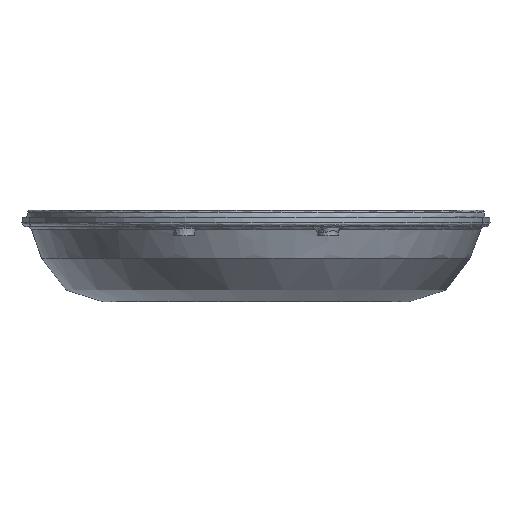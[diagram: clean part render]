
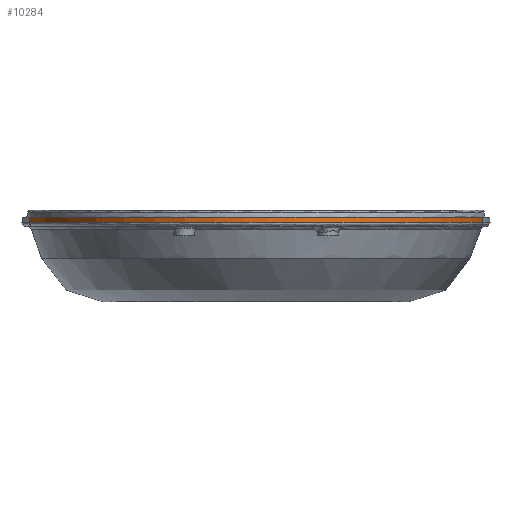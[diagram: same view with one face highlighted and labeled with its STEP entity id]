
A CAD part, left-side view. The second image highlights one B-rep face of the part: STEP entity #10284.
In plain terms, the highlighted free-form (B-spline) face has degree [3, 1] with [21, 2] control points.
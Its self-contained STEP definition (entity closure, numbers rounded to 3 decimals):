
#7384=CARTESIAN_POINT('',(-62.612,48.193,-19.0));
#7385=VERTEX_POINT('',#7384);
#7386=CARTESIAN_POINT('',(-62.612,-48.193,-19.0));
#7387=VERTEX_POINT('',#7386);
#7388=CARTESIAN_POINT('',(-62.612,48.193,-19.0));
#7389=CARTESIAN_POINT('',(-65.071,47.778,-19.0));
#7390=CARTESIAN_POINT('',(-71.294,46.446,-19.0));
#7391=CARTESIAN_POINT('',(-80.989,43.168,-19.0));
#7392=CARTESIAN_POINT('',(-91.288,37.811,-19.0));
#7393=CARTESIAN_POINT('',(-100.492,30.747,-19.0));
#7394=CARTESIAN_POINT('',(-106.801,23.383,-19.0));
#7395=CARTESIAN_POINT('',(-110.628,16.709,-19.0));
#7396=CARTESIAN_POINT('',(-112.787,11.358,-19.0));
#7397=CARTESIAN_POINT('',(-114.132,5.749,-19.0));
#7398=CARTESIAN_POINT('',(-114.59,0.,-19.0));
#7399=CARTESIAN_POINT('',(-114.132,-5.749,-19.0));
#7400=CARTESIAN_POINT('',(-112.787,-11.358,-19.0));
#7401=CARTESIAN_POINT('',(-110.627,-16.709,-19.0));
#7402=CARTESIAN_POINT('',(-106.801,-23.383,-19.0));
#7403=CARTESIAN_POINT('',(-100.492,-30.747,-19.0));
#7404=CARTESIAN_POINT('',(-91.288,-37.811,-19.0));
#7405=CARTESIAN_POINT('',(-80.989,-43.168,-19.0));
#7406=CARTESIAN_POINT('',(-71.294,-46.446,-19.0));
#7407=CARTESIAN_POINT('',(-65.07,-47.778,-19.0));
#7408=CARTESIAN_POINT('',(-62.612,-48.193,-19.));
#7409=B_SPLINE_CURVE_WITH_KNOTS('',3,(#7388,#7389,#7390,#7391,#7392,#7393,#7394,#7395,#7396,#7397,#7398,#7399,#7400,#7401,#7402,#7403,#7404,#7405,#7406,#7407,#7408),.UNSPECIFIED.,.F.,.U.,(4,1,1,1,1,1,1,1,1,1,1,1,1,1,1,1,1,1,4),(4.1,11.576,23.145,34.703,46.243,57.756,63.513,69.263,75.008,80.75,86.492,92.237,97.987,103.744,115.257,126.797,138.355,149.924,157.401),.UNSPECIFIED.);
#7410=EDGE_CURVE('',#7385,#7387,#7409,.T.);
#8366=CARTESIAN_POINT('',(-62.612,48.193,-20.1));
#8367=VERTEX_POINT('',#8366);
#8769=CARTESIAN_POINT('',(-62.612,-48.193,-20.1));
#8770=VERTEX_POINT('',#8769);
#9007=CARTESIAN_POINT('',(-62.612,48.193,-20.1));
#9008=DIRECTION('',(0.0,0.0,1.0));
#9009=VECTOR('',#9008,1.1);
#9010=LINE('',#9007,#9009);
#9011=EDGE_CURVE('',#8367,#7385,#9010,.T.);
#10195=CARTESIAN_POINT('',(-62.612,-48.193,-19.0));
#10196=DIRECTION('',(0.0,0.0,-1.0));
#10197=VECTOR('',#10196,1.1);
#10198=LINE('',#10195,#10197);
#10199=EDGE_CURVE('',#7387,#8770,#10198,.T.);
#10206=CARTESIAN_POINT('',(-62.611,48.193,-19.0));
#10207=CARTESIAN_POINT('',(-65.07,47.778,-19.0));
#10208=CARTESIAN_POINT('',(-71.294,46.446,-19.0));
#10209=CARTESIAN_POINT('',(-80.989,43.168,-19.0));
#10210=CARTESIAN_POINT('',(-91.288,37.811,-19.0));
#10211=CARTESIAN_POINT('',(-100.492,30.747,-19.0));
#10212=CARTESIAN_POINT('',(-106.801,23.383,-19.0));
#10213=CARTESIAN_POINT('',(-110.628,16.709,-19.0));
#10214=CARTESIAN_POINT('',(-112.787,11.358,-19.0));
#10215=CARTESIAN_POINT('',(-114.132,5.749,-19.0));
#10216=CARTESIAN_POINT('',(-114.59,0.,-19.0));
#10217=CARTESIAN_POINT('',(-114.132,-5.749,-19.0));
#10218=CARTESIAN_POINT('',(-112.787,-11.358,-19.0));
#10219=CARTESIAN_POINT('',(-110.627,-16.709,-19.0));
#10220=CARTESIAN_POINT('',(-106.801,-23.383,-19.0));
#10221=CARTESIAN_POINT('',(-100.492,-30.747,-19.0));
#10222=CARTESIAN_POINT('',(-91.288,-37.811,-19.0));
#10223=CARTESIAN_POINT('',(-80.989,-43.168,-19.0));
#10224=CARTESIAN_POINT('',(-71.294,-46.446,-19.0));
#10225=CARTESIAN_POINT('',(-65.07,-47.778,-19.0));
#10226=CARTESIAN_POINT('',(-62.611,-48.193,-19.0));
#10227=CARTESIAN_POINT('',(-62.611,48.193,-20.101));
#10228=CARTESIAN_POINT('',(-65.07,47.778,-20.101));
#10229=CARTESIAN_POINT('',(-71.294,46.446,-20.101));
#10230=CARTESIAN_POINT('',(-80.989,43.168,-20.101));
#10231=CARTESIAN_POINT('',(-91.288,37.811,-20.101));
#10232=CARTESIAN_POINT('',(-100.492,30.747,-20.101));
#10233=CARTESIAN_POINT('',(-106.801,23.383,-20.101));
#10234=CARTESIAN_POINT('',(-110.628,16.709,-20.101));
#10235=CARTESIAN_POINT('',(-112.787,11.358,-20.101));
#10236=CARTESIAN_POINT('',(-114.132,5.749,-20.101));
#10237=CARTESIAN_POINT('',(-114.59,0.,-20.101));
#10238=CARTESIAN_POINT('',(-114.132,-5.749,-20.101));
#10239=CARTESIAN_POINT('',(-112.787,-11.358,-20.101));
#10240=CARTESIAN_POINT('',(-110.627,-16.709,-20.101));
#10241=CARTESIAN_POINT('',(-106.801,-23.383,-20.101));
#10242=CARTESIAN_POINT('',(-100.492,-30.747,-20.101));
#10243=CARTESIAN_POINT('',(-91.288,-37.811,-20.101));
#10244=CARTESIAN_POINT('',(-80.989,-43.168,-20.101));
#10245=CARTESIAN_POINT('',(-71.294,-46.446,-20.101));
#10246=CARTESIAN_POINT('',(-65.07,-47.778,-20.101));
#10247=CARTESIAN_POINT('',(-62.611,-48.193,-20.101));
#10248=B_SPLINE_SURFACE_WITH_KNOTS('',3,1,((#10206,#10227),(#10207,#10228),(#10208,#10229),(#10209,#10230),(#10210,#10231),(#10211,#10232),(#10212,#10233),(#10213,#10234),(#10214,#10235),(#10215,#10236),(#10216,#10237),(#10217,#10238),(#10218,#10239),(#10219,#10240),(#10220,#10241),(#10221,#10242),(#10222,#10243),(#10223,#10244),(#10224,#10245),(#10225,#10246),(#10226,#10247)),.UNSPECIFIED.,.F.,.F.,.U.,(4,1,1,1,1,1,1,1,1,1,1,1,1,1,1,1,1,1,4),(2,2),(4.099,11.576,23.145,34.703,46.243,57.756,63.513,69.263,75.008,80.75,86.492,92.237,97.987,103.744,115.257,126.797,138.355,149.924,157.402),(0.0,1.0),.UNSPECIFIED.);
#10249=ORIENTED_EDGE('',*,*,#9011,.F.);
#10250=CARTESIAN_POINT('',(-62.612,48.193,-20.1));
#10251=CARTESIAN_POINT('',(-66.213,47.585,-20.1));
#10252=CARTESIAN_POINT('',(-71.564,46.327,-20.1));
#10253=CARTESIAN_POINT('',(-78.472,43.939,-20.1));
#10254=CARTESIAN_POINT('',(-85.195,41.065,-20.1));
#10255=CARTESIAN_POINT('',(-91.571,37.445,-20.1));
#10256=CARTESIAN_POINT('',(-97.419,33.046,-20.1));
#10257=CARTESIAN_POINT('',(-101.481,29.349,-20.1));
#10258=CARTESIAN_POINT('',(-105.152,25.255,-20.1));
#10259=CARTESIAN_POINT('',(-108.344,20.786,-20.1));
#10260=CARTESIAN_POINT('',(-110.968,15.966,-20.1));
#10261=CARTESIAN_POINT('',(-112.936,10.837,-20.1));
#10262=CARTESIAN_POINT('',(-114.16,5.48,-20.1));
#10263=CARTESIAN_POINT('',(-114.576,0.,-20.1));
#10264=CARTESIAN_POINT('',(-114.16,-5.481,-20.1));
#10265=CARTESIAN_POINT('',(-112.936,-10.838,-20.1));
#10266=CARTESIAN_POINT('',(-110.967,-15.966,-20.1));
#10267=CARTESIAN_POINT('',(-108.343,-20.787,-20.1));
#10268=CARTESIAN_POINT('',(-105.152,-25.255,-20.1));
#10269=CARTESIAN_POINT('',(-101.48,-29.35,-20.1));
#10270=CARTESIAN_POINT('',(-97.419,-33.047,-20.1));
#10271=CARTESIAN_POINT('',(-91.571,-37.445,-20.1));
#10272=CARTESIAN_POINT('',(-85.195,-41.066,-20.1));
#10273=CARTESIAN_POINT('',(-78.471,-43.94,-20.1));
#10274=CARTESIAN_POINT('',(-71.563,-46.327,-20.1));
#10275=CARTESIAN_POINT('',(-66.213,-47.585,-20.1));
#10276=CARTESIAN_POINT('',(-62.612,-48.193,-20.1));
#10277=B_SPLINE_CURVE_WITH_KNOTS('',3,(#10250,#10251,#10252,#10253,#10254,#10255,#10256,#10257,#10258,#10259,#10260,#10261,#10262,#10263,#10264,#10265,#10266,#10267,#10268,#10269,#10270,#10271,#10272,#10273,#10274,#10275,#10276),.UNSPECIFIED.,.F.,.U.,(4,1,1,1,1,1,1,1,1,1,1,1,1,1,1,1,1,1,1,1,1,1,1,1,4),(4.1,15.05,20.525,26.,36.95,42.425,47.9,53.375,58.85,64.325,69.8,75.275,80.75,86.225,91.7,97.175,102.651,108.126,113.601,119.076,124.551,135.501,140.976,146.451,157.401),.UNSPECIFIED.);
#10278=EDGE_CURVE('',#8367,#8770,#10277,.T.);
#10279=ORIENTED_EDGE('',*,*,#10278,.T.);
#10280=ORIENTED_EDGE('',*,*,#10199,.F.);
#10281=ORIENTED_EDGE('',*,*,#7410,.F.);
#10282=EDGE_LOOP('',(#10249,#10279,#10280,#10281));
#10283=FACE_OUTER_BOUND('',#10282,.T.);
#10284=ADVANCED_FACE('',(#10283),#10248,.F.);
